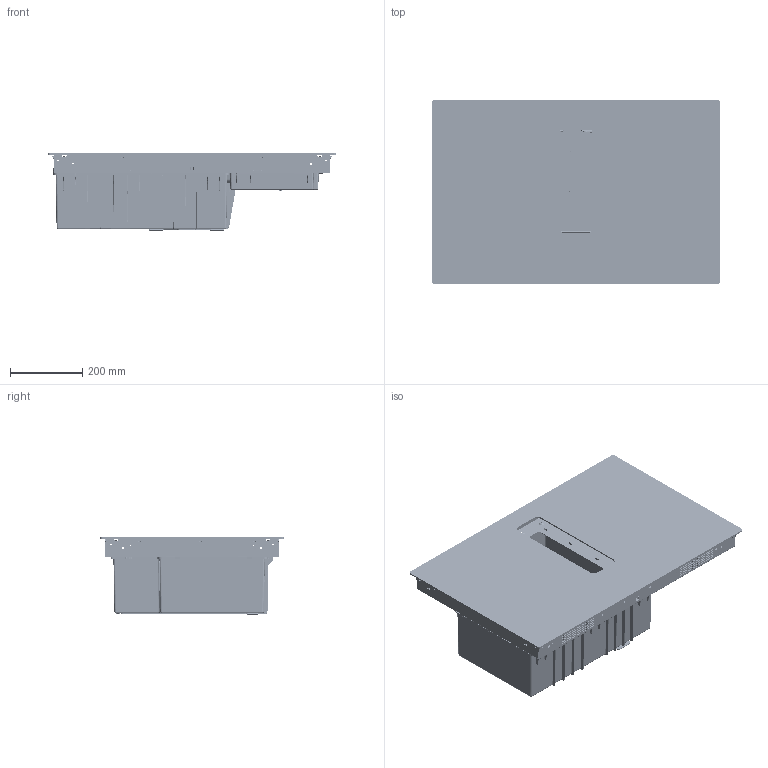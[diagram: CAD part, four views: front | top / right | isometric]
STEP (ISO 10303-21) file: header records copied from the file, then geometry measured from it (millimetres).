
FILE_DESCRIPTION(('CATIA V5 STEP','CAx-IF Rec.Pracs.--- Model Styling and Organization---1.4--- 2014-01-23','CAx-IF Rec.Pracs.---Representation and Presentation of Product Manufacturing Information (PMI)---4.0---2014-10-13','CAx-IF Rec.Pracs.---3D Tessellated Data Validation Properties---0.5---2014-09-14'),'2;1');
FILE_NAME('C:\Users\LeyhBjo\OneDrive - Electrolux\Desktop\COMBOshells\ComboFlexi.stp','2023-11-15T06:35:32+00:00',('none'),('Electrolux'),'CATIA Version 5-6 Release 2016','CATIA V5 STEP AP242','none');
FILE_SCHEMA(('AP242_MANAGED_MODEL_BASED_3D_ENGINEERING_MIM_LF {1 0 10303 442 1 1 4}'));
Products named in the file (40): M0434132; M0516632; M0421545; M0516387; M0442640; M0442640_Duplicated_1; M0442640_Duplicated_2; M0565543; M0168877; M0170011; M0168886; M0168886_Duplicated_3; M0168886_Duplicated_4; M0168886_Duplicated_5; M0168886_Duplicated_6; M0168886_Duplicated_7; M0168879; M0168879_Duplicated_8; M0168879_Duplicated_9; M0168879_Duplicated_10; M0168879_Duplicated_11; M0168879_Duplicated_12; M0168885; M0168888; M0168888_Duplicated_13; M0168888_Duplicated_14; M0168882; M0428392; M0434237; M0557949; M0396213; M0544095; M0503257; M0475866; M0475866_Duplicated_15; M0503259; M0537433; M0507188; M0634049; M0501027
Assembly tree (39 placements, depth 4):
  M0434132
    M0516632
      M0421545
      M0516387
      M0442640
      M0442640_Duplicated_1
      M0442640_Duplicated_2
    M0565543
    M0168877
      M0170011
      M0168886
      M0168886_Duplicated_3
      M0168886_Duplicated_4
      M0168886_Duplicated_5
      M0168886_Duplicated_6
      M0168886_Duplicated_7
      M0168879
      M0168879_Duplicated_8
      M0168879_Duplicated_9
      M0168879_Duplicated_10
      M0168879_Duplicated_11
      M0168879_Duplicated_12
      M0168885
      M0168888
      M0168888_Duplicated_13
      M0168888_Duplicated_14
      M0168882
      M0428392
    M0434237
      M0557949
        M0396213
      M0544095
        M0503257
        M0475866
        M0475866_Duplicated_15
        M0503259
        M0537433
      M0507188
        M0634049
        M0501027
Bounding box: 800 x 510 x 215.5 mm (x, y, z)
Volume: 3917690.1 mm3; surface area: 3245310.4 mm2
Topology: 33 solids, 33 shells, 16864 faces, 43454 edges, 26283 vertices
Faces by surface type: plane 6797, cylinder 5270, bspline 2910, torus 646, cone 598, sphere 540, extrusion 101, revolution 2
Entity records: 673599 total; most frequent: CARTESIAN_POINT 291226, ORIENTED_EDGE 85660, DIRECTION 58387, EDGE_CURVE 42830, VERTEX_POINT 26283, VECTOR 24115, LINE 24014, AXIS2_PLACEMENT_3D 20859
